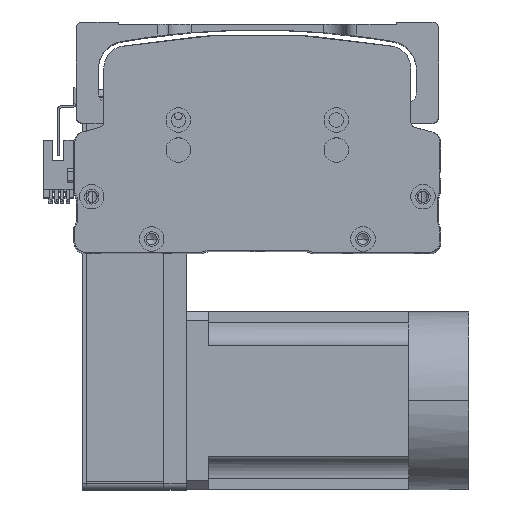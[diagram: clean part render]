
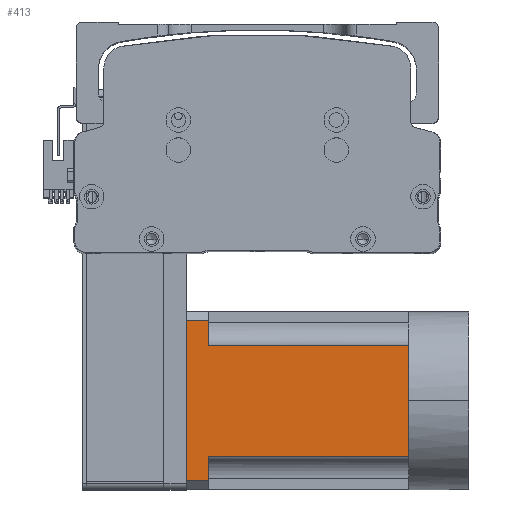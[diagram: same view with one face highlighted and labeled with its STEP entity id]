
A CAD part, top view. The second image highlights one B-rep face of the part: STEP entity #413.
In plain terms, the highlighted planar face has unit normal (0, 0, 1) as drawn and (0, 0, -1) by its records, which use the part's own axes.
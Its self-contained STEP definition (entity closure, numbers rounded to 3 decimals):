
#413 = ADVANCED_FACE ( 'NONE', ( #49008 ), #45641, .T. ) ;
#833 = CARTESIAN_POINT ( 'NONE',  ( -25., 0., -40. ) ) ;
#1670 = VECTOR ( 'NONE', #51428, 1000. ) ;
#1915 = CARTESIAN_POINT ( 'NONE',  ( 25., 90., -40. ) ) ;
#2658 = EDGE_CURVE ( 'NONE', #48350, #14237, #55247, .T. ) ;
#2886 = ORIENTED_EDGE ( 'NONE', *, *, #51850, .T. ) ;
#4674 = CARTESIAN_POINT ( 'NONE',  ( 36., 90., -40. ) ) ;
#5381 = CARTESIAN_POINT ( 'NONE',  ( -40., 0., -40. ) ) ;
#9207 = ORIENTED_EDGE ( 'NONE', *, *, #31035, .T. ) ;
#9273 = DIRECTION ( 'NONE',  ( 0., 1., 0. ) ) ;
#9371 = VECTOR ( 'NONE', #32068, 1000. ) ;
#10052 = CARTESIAN_POINT ( 'NONE',  ( 0., 0., -40. ) ) ;
#10518 = EDGE_CURVE ( 'NONE', #36602, #48350, #30768, .T. ) ;
#11901 = DIRECTION ( 'NONE',  ( -1., 0., 0. ) ) ;
#11965 = AXIS2_PLACEMENT_3D ( 'NONE', #13066, #17919, #50266 ) ;
#12388 = LINE ( 'NONE', #48019, #47856 ) ;
#13066 = CARTESIAN_POINT ( 'NONE',  ( -40., -27., -40. ) ) ;
#14237 = VERTEX_POINT ( 'NONE', #42076 ) ;
#14386 = CARTESIAN_POINT ( 'NONE',  ( -40., 90., -40. ) ) ;
#14974 = CARTESIAN_POINT ( 'NONE',  ( -25., -27., -40. ) ) ;
#15611 = DIRECTION ( 'NONE',  ( 0., -1., 0. ) ) ;
#17730 = LINE ( 'NONE', #51170, #40907 ) ;
#17919 = DIRECTION ( 'NONE',  ( 0., 0., -1. ) ) ;
#19375 = VERTEX_POINT ( 'NONE', #1915 ) ;
#19660 = LINE ( 'NONE', #5381, #45722 ) ;
#20340 = DIRECTION ( 'NONE',  ( -1., 0., 0. ) ) ;
#24412 = CARTESIAN_POINT ( 'NONE',  ( -36., 100., -40. ) ) ;
#24428 = VERTEX_POINT ( 'NONE', #39916 ) ;
#25202 = VERTEX_POINT ( 'NONE', #10052 ) ;
#25723 = VECTOR ( 'NONE', #15611, 1000. ) ;
#25803 = ORIENTED_EDGE ( 'NONE', *, *, #10518, .T. ) ;
#26283 = LINE ( 'NONE', #14386, #1670 ) ;
#28366 = EDGE_CURVE ( 'NONE', #24428, #53285, #34020, .T. ) ;
#28728 = VECTOR ( 'NONE', #11901, 1000. ) ;
#28962 = DIRECTION ( 'NONE',  ( 0., 1., 0. ) ) ;
#30346 = VERTEX_POINT ( 'NONE', #46433 ) ;
#30474 = VERTEX_POINT ( 'NONE', #24412 ) ;
#30642 = VECTOR ( 'NONE', #58799, 1000. ) ;
#30768 = LINE ( 'NONE', #14974, #41601 ) ;
#31035 = EDGE_CURVE ( 'NONE', #19375, #30346, #38034, .T. ) ;
#32068 = DIRECTION ( 'NONE',  ( 0., -1., 0. ) ) ;
#32333 = ORIENTED_EDGE ( 'NONE', *, *, #36976, .T. ) ;
#33083 = ORIENTED_EDGE ( 'NONE', *, *, #50714, .T. ) ;
#33106 = DIRECTION ( 'NONE',  ( -1., 0., 0. ) ) ;
#34020 = LINE ( 'NONE', #59780, #9371 ) ;
#35013 = CARTESIAN_POINT ( 'NONE',  ( -40., 100., -40. ) ) ;
#35739 = CARTESIAN_POINT ( 'NONE',  ( -40., 90., -40. ) ) ;
#36602 = VERTEX_POINT ( 'NONE', #833 ) ;
#36627 = ORIENTED_EDGE ( 'NONE', *, *, #36807, .T. ) ;
#36807 = EDGE_CURVE ( 'NONE', #30346, #25202, #19660, .T. ) ;
#36976 = EDGE_CURVE ( 'NONE', #25202, #36602, #12388, .T. ) ;
#37926 = ORIENTED_EDGE ( 'NONE', *, *, #57207, .F. ) ;
#38034 = LINE ( 'NONE', #57120, #25723 ) ;
#39916 = CARTESIAN_POINT ( 'NONE',  ( 36., 100., -40. ) ) ;
#40907 = VECTOR ( 'NONE', #9273, 1000. ) ;
#41039 = LINE ( 'NONE', #35013, #28728 ) ;
#41601 = VECTOR ( 'NONE', #28962, 1000. ) ;
#42076 = CARTESIAN_POINT ( 'NONE',  ( -36., 90., -40. ) ) ;
#44230 = EDGE_LOOP ( 'NONE', ( #37926, #48996, #2886, #9207, #36627, #32333, #25803, #46195, #33083 ) ) ;
#45641 = PLANE ( 'NONE',  #11965 ) ;
#45722 = VECTOR ( 'NONE', #33106, 1000. ) ;
#46195 = ORIENTED_EDGE ( 'NONE', *, *, #2658, .T. ) ;
#46433 = CARTESIAN_POINT ( 'NONE',  ( 25., 0., -40. ) ) ;
#47856 = VECTOR ( 'NONE', #20340, 1000. ) ;
#48019 = CARTESIAN_POINT ( 'NONE',  ( -40., 0., -40. ) ) ;
#48350 = VERTEX_POINT ( 'NONE', #50252 ) ;
#48996 = ORIENTED_EDGE ( 'NONE', *, *, #28366, .T. ) ;
#49008 = FACE_OUTER_BOUND ( 'NONE', #44230, .T. ) ;
#50252 = CARTESIAN_POINT ( 'NONE',  ( -25., 90., -40. ) ) ;
#50266 = DIRECTION ( 'NONE',  ( -1., 0., 0. ) ) ;
#50714 = EDGE_CURVE ( 'NONE', #14237, #30474, #17730, .T. ) ;
#51170 = CARTESIAN_POINT ( 'NONE',  ( -36., -27., -40. ) ) ;
#51428 = DIRECTION ( 'NONE',  ( -1., 0., 0. ) ) ;
#51850 = EDGE_CURVE ( 'NONE', #53285, #19375, #26283, .T. ) ;
#53285 = VERTEX_POINT ( 'NONE', #4674 ) ;
#55247 = LINE ( 'NONE', #35739, #30642 ) ;
#57120 = CARTESIAN_POINT ( 'NONE',  ( 25., -27., -40. ) ) ;
#57207 = EDGE_CURVE ( 'NONE', #24428, #30474, #41039, .T. ) ;
#58799 = DIRECTION ( 'NONE',  ( -1., 0., 0. ) ) ;
#59780 = CARTESIAN_POINT ( 'NONE',  ( 36., -27., -40. ) ) ;
